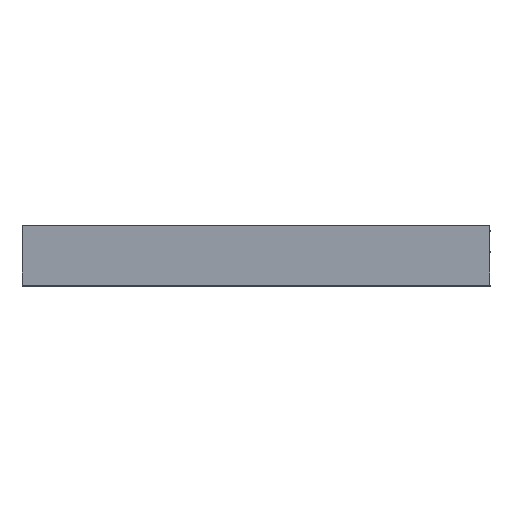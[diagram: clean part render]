
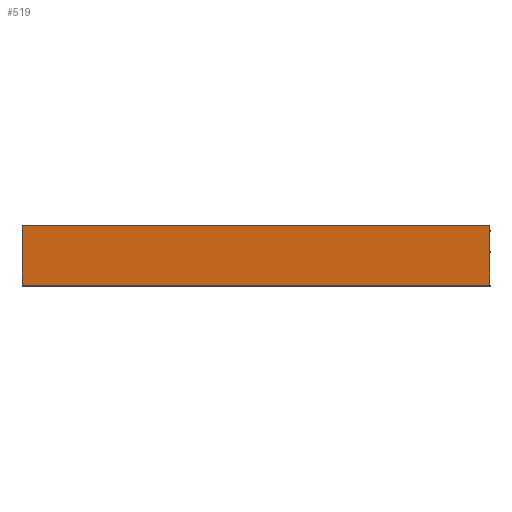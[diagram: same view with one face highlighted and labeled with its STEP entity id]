
A CAD part, top view. The second image highlights one B-rep face of the part: STEP entity #519.
In plain terms, the highlighted free-form (B-spline) face has degree [1, 1] with [2, 2] control points.
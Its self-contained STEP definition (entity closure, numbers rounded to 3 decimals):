
#46 = B_SPLINE_SURFACE_WITH_KNOTS('',1,1,(
    (#47,#48)
    ,(#49,#50)),.UNSPECIFIED.,.F.,.F.,.F.,(2,2),(2,2),(-23.523,
    41.479),(-29.921,10.544),
  .PIECEWISE_BEZIER_KNOTS.);
#47 = CARTESIAN_POINT('',(0.,-36.792,
    -33.047));
#48 = CARTESIAN_POINT('',(0.,-36.792,
    7.419));
#49 = CARTESIAN_POINT('',(0.,-101.795,
    -33.047));
#50 = CARTESIAN_POINT('',(0.,-101.795,
    7.419));
#123 = B_SPLINE_SURFACE_WITH_KNOTS('',1,1,(
    (#124,#125)
    ,(#126,#127
    )),.UNSPECIFIED.,.F.,.F.,.F.,(2,2),(2,2),(-23.523,
    41.479),(-29.921,10.544),
  .PIECEWISE_BEZIER_KNOTS.);
#124 = CARTESIAN_POINT('',(500.,-101.795,-33.047));
#125 = CARTESIAN_POINT('',(500.,-101.795,7.419));
#126 = CARTESIAN_POINT('',(500.,-36.792,-33.047));
#127 = CARTESIAN_POINT('',(500.,-36.792,7.419));
#389 = ( BOUNDED_SURFACE() B_SPLINE_SURFACE(1,2,(
    (#390,#391,#392)
    ,(#393,#394,#395
)),.UNSPECIFIED.,.F.,.F.,.F.) B_SPLINE_SURFACE_WITH_KNOTS((2,2),(3,3),(
    0.,333.333),(0.,1.481),.PIECEWISE_BEZIER_KNOTS.) 
GEOMETRIC_REPRESENTATION_ITEM() RATIONAL_B_SPLINE_SURFACE((
    (1.,0.738,1.)
,(1.,0.738,1.))) REPRESENTATION_ITEM('') SURFACE() );
#390 = CARTESIAN_POINT('',(500.,-100.429,2.069));
#391 = CARTESIAN_POINT('',(500.,-101.794,1.946));
#392 = CARTESIAN_POINT('',(500.,-101.794,0.575));
#393 = CARTESIAN_POINT('',(0.,-100.429,
    2.069));
#394 = CARTESIAN_POINT('',(0.,-101.794,
    1.946));
#395 = CARTESIAN_POINT('',(0.,-101.794,
    0.575));
#406 = VERTEX_POINT('',#407);
#407 = CARTESIAN_POINT('',(0.,-100.429,
    2.069));
#452 = VERTEX_POINT('',#453);
#453 = CARTESIAN_POINT('',(500.,-100.429,2.069));
#496 = EDGE_CURVE('',#406,#452,#497,.T.);
#497 = SURFACE_CURVE('',#498,(#501,#507),.PCURVE_S1.);
#498 = B_SPLINE_CURVE_WITH_KNOTS('',1,(#499,#500),.UNSPECIFIED.,.F.,.F.,
  (2,2),(0.,500.),.PIECEWISE_BEZIER_KNOTS.);
#499 = CARTESIAN_POINT('',(0.,-100.429,
    2.069));
#500 = CARTESIAN_POINT('',(500.,-100.429,2.069));
#501 = PCURVE('',#389,#502);
#502 = DEFINITIONAL_REPRESENTATION('',(#503),#506);
#503 = B_SPLINE_CURVE_WITH_KNOTS('',1,(#504,#505),.UNSPECIFIED.,.F.,.F.,
  (2,2),(0.,500.),.PIECEWISE_BEZIER_KNOTS.);
#504 = CARTESIAN_POINT('',(333.333,0.));
#505 = CARTESIAN_POINT('',(0.,0.));
#506 = ( GEOMETRIC_REPRESENTATION_CONTEXT(2) 
PARAMETRIC_REPRESENTATION_CONTEXT() REPRESENTATION_CONTEXT('2D SPACE',''
  ) );
#507 = PCURVE('',#508,#513);
#508 = B_SPLINE_SURFACE_WITH_KNOTS('',1,1,(
    (#509,#510)
    ,(#511,#512
    )),.UNSPECIFIED.,.F.,.F.,.F.,(2,2),(2,2),(-0.001,63.861),(
    -0.001,500.001),.PIECEWISE_BEZIER_KNOTS.);
#509 = CARTESIAN_POINT('',(-0.001,-36.792,
    7.418));
#510 = CARTESIAN_POINT('',(500.001,-36.792,7.418));
#511 = CARTESIAN_POINT('',(-0.001,-100.43,
    2.069));
#512 = CARTESIAN_POINT('',(500.001,-100.43,2.069));
#513 = DEFINITIONAL_REPRESENTATION('',(#514),#518);
#514 = LINE('',#515,#516);
#515 = CARTESIAN_POINT('',(63.86,0.));
#516 = VECTOR('',#517,1.);
#517 = DIRECTION('',(0.,1.));
#518 = ( GEOMETRIC_REPRESENTATION_CONTEXT(2) 
PARAMETRIC_REPRESENTATION_CONTEXT() REPRESENTATION_CONTEXT('2D SPACE',''
  ) );
#519 = ADVANCED_FACE('',(#520),#508,.T.);
#520 = FACE_BOUND('',#521,.T.);
#521 = EDGE_LOOP('',(#522,#544,#545,#567));
#522 = ORIENTED_EDGE('',*,*,#523,.T.);
#523 = EDGE_CURVE('',#524,#406,#526,.T.);
#524 = VERTEX_POINT('',#525);
#525 = CARTESIAN_POINT('',(0.,-36.793,
    7.418));
#526 = SURFACE_CURVE('',#527,(#530,#537),.PCURVE_S1.);
#527 = B_SPLINE_CURVE_WITH_KNOTS('',1,(#528,#529),.UNSPECIFIED.,.F.,.F.,
  (2,2),(0.,63.86),.PIECEWISE_BEZIER_KNOTS.);
#528 = CARTESIAN_POINT('',(0.,-36.793,
    7.418));
#529 = CARTESIAN_POINT('',(0.,-100.429,
    2.069));
#530 = PCURVE('',#508,#531);
#531 = DEFINITIONAL_REPRESENTATION('',(#532),#536);
#532 = LINE('',#533,#534);
#533 = CARTESIAN_POINT('',(0.,0.));
#534 = VECTOR('',#535,1.);
#535 = DIRECTION('',(1.,0.));
#536 = ( GEOMETRIC_REPRESENTATION_CONTEXT(2) 
PARAMETRIC_REPRESENTATION_CONTEXT() REPRESENTATION_CONTEXT('2D SPACE',''
  ) );
#537 = PCURVE('',#46,#538);
#538 = DEFINITIONAL_REPRESENTATION('',(#539),#543);
#539 = LINE('',#540,#541);
#540 = CARTESIAN_POINT('',(-23.522,10.543));
#541 = VECTOR('',#542,1.);
#542 = DIRECTION('',(0.996,-0.084));
#543 = ( GEOMETRIC_REPRESENTATION_CONTEXT(2) 
PARAMETRIC_REPRESENTATION_CONTEXT() REPRESENTATION_CONTEXT('2D SPACE',''
  ) );
#544 = ORIENTED_EDGE('',*,*,#496,.T.);
#545 = ORIENTED_EDGE('',*,*,#546,.F.);
#546 = EDGE_CURVE('',#547,#452,#549,.T.);
#547 = VERTEX_POINT('',#548);
#548 = CARTESIAN_POINT('',(500.,-36.793,7.418));
#549 = SURFACE_CURVE('',#550,(#553,#560),.PCURVE_S1.);
#550 = B_SPLINE_CURVE_WITH_KNOTS('',1,(#551,#552),.UNSPECIFIED.,.F.,.F.,
  (2,2),(0.,63.86),.PIECEWISE_BEZIER_KNOTS.);
#551 = CARTESIAN_POINT('',(500.,-36.793,7.418));
#552 = CARTESIAN_POINT('',(500.,-100.429,2.069));
#553 = PCURVE('',#508,#554);
#554 = DEFINITIONAL_REPRESENTATION('',(#555),#559);
#555 = LINE('',#556,#557);
#556 = CARTESIAN_POINT('',(0.,500.));
#557 = VECTOR('',#558,1.);
#558 = DIRECTION('',(1.,0.));
#559 = ( GEOMETRIC_REPRESENTATION_CONTEXT(2) 
PARAMETRIC_REPRESENTATION_CONTEXT() REPRESENTATION_CONTEXT('2D SPACE',''
  ) );
#560 = PCURVE('',#123,#561);
#561 = DEFINITIONAL_REPRESENTATION('',(#562),#566);
#562 = LINE('',#563,#564);
#563 = CARTESIAN_POINT('',(41.478,10.543));
#564 = VECTOR('',#565,1.);
#565 = DIRECTION('',(-0.996,-0.084));
#566 = ( GEOMETRIC_REPRESENTATION_CONTEXT(2) 
PARAMETRIC_REPRESENTATION_CONTEXT() REPRESENTATION_CONTEXT('2D SPACE',''
  ) );
#567 = ORIENTED_EDGE('',*,*,#568,.F.);
#568 = EDGE_CURVE('',#524,#547,#569,.T.);
#569 = SURFACE_CURVE('',#570,(#573,#580),.PCURVE_S1.);
#570 = B_SPLINE_CURVE_WITH_KNOTS('',1,(#571,#572),.UNSPECIFIED.,.F.,.F.,
  (2,2),(0.,500.),.PIECEWISE_BEZIER_KNOTS.);
#571 = CARTESIAN_POINT('',(0.,-36.793,
    7.418));
#572 = CARTESIAN_POINT('',(500.,-36.793,7.418));
#573 = PCURVE('',#508,#574);
#574 = DEFINITIONAL_REPRESENTATION('',(#575),#579);
#575 = LINE('',#576,#577);
#576 = CARTESIAN_POINT('',(0.,0.));
#577 = VECTOR('',#578,1.);
#578 = DIRECTION('',(0.,1.));
#579 = ( GEOMETRIC_REPRESENTATION_CONTEXT(2) 
PARAMETRIC_REPRESENTATION_CONTEXT() REPRESENTATION_CONTEXT('2D SPACE',''
  ) );
#580 = PCURVE('',#581,#586);
#581 = B_SPLINE_SURFACE_WITH_KNOTS('',1,1,(
    (#582,#583)
    ,(#584,#585
    )),.UNSPECIFIED.,.F.,.F.,.F.,(2,2),(2,2),(-0.001,2.039),(-0.001,
    500.001),.PIECEWISE_BEZIER_KNOTS.);
#582 = CARTESIAN_POINT('',(-0.001,-36.793,
    5.378));
#583 = CARTESIAN_POINT('',(500.001,-36.793,5.378));
#584 = CARTESIAN_POINT('',(-0.001,-36.793,
    7.419));
#585 = CARTESIAN_POINT('',(500.001,-36.793,7.419));
#586 = DEFINITIONAL_REPRESENTATION('',(#587),#591);
#587 = LINE('',#588,#589);
#588 = CARTESIAN_POINT('',(2.038,0.));
#589 = VECTOR('',#590,1.);
#590 = DIRECTION('',(0.,1.));
#591 = ( GEOMETRIC_REPRESENTATION_CONTEXT(2) 
PARAMETRIC_REPRESENTATION_CONTEXT() REPRESENTATION_CONTEXT('2D SPACE',''
  ) );
